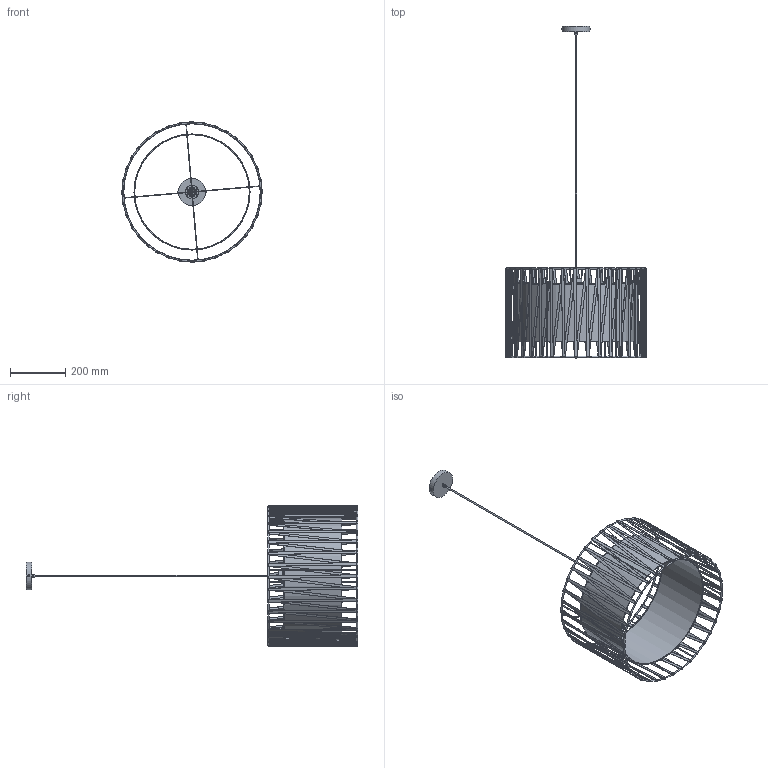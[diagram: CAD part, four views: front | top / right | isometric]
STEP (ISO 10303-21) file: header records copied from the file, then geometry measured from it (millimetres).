
FILE_DESCRIPTION(/* description */ (''),/* implementation_level */ '2;1');
FILE_NAME(/* name */ 'C:/Users/kubaw/OneDrive/Pulpit/TK_lighting - modele 2/OK/1655_HARMONY/1655_HARMONY.step',/* time_stamp */ '2021-04-02T07:38:21+02:00',/* author */ (''),/* organization */ (''),/* preprocessor_version */ 'ST-DEVELOPER v18.1',/* originating_system */ 'Autodesk Translation Framework v9.10.0.1330',/* authorisation */ '');
FILE_SCHEMA (('AUTOMOTIVE_DESIGN { 1 0 10303 214 3 1 1 }'));
Length unit declared in the file: millimetre
Products named in the file (5): 1655_HARMONY; 1655_2899_KLOSZ HARMONY; MOCOWANIE_HARMONY; ŚRUBA_HARMONY; ŚRUBA_HARMONY v1(Mirror)
Assembly tree (4 placements, depth 2):
  1655_HARMONY
    1655_2899_KLOSZ HARMONY
    MOCOWANIE_HARMONY
    ŚRUBA_HARMONY
    ŚRUBA_HARMONY v1(Mirror)
Bounding box: 507 x 1200 x 507 mm (x, y, z)
Volume: 783334.1 mm3; surface area: 1168911.3 mm2
Topology: 176 solids, 176 shells, 1026 faces, 2012 edges, 1342 vertices
Faces by surface type: plane 514, bspline 303, torus 164, cylinder 42, cone 3
Full cylindrical faces by diameter (mm): 2.4 x6, 3 x6, 5 x1, 6 x5, 8 x2, 11 x1, 13 x1, 26.04 x1, 30.24 x1, 31.08 x1, 33.6 x1, 42 x1, 47.04 x1, 48.72 x1, 100 x1, 418 x3, 420 x1
Entity records: 31191 total; most frequent: CARTESIAN_POINT 9898, DIRECTION 4411, ORIENTED_EDGE 4024, EDGE_CURVE 2012, AXIS2_PLACEMENT_3D 1725, VERTEX_POINT 1342, EDGE_LOOP 1052, FACE_OUTER_BOUND 1026
